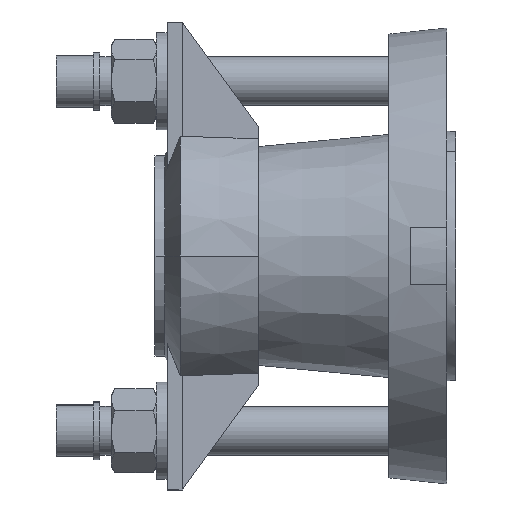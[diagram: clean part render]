
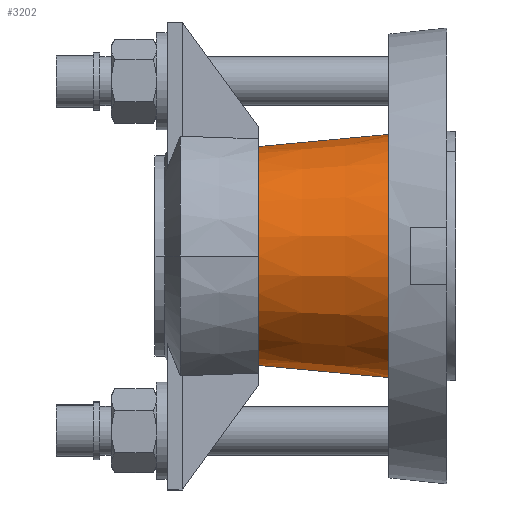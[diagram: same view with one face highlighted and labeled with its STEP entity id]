
A CAD part, left-side view. The second image highlights one B-rep face of the part: STEP entity #3202.
In plain terms, the highlighted conical face has half-angle 5.315 degrees and reference radius 40 mm.
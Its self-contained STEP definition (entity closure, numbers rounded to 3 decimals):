
#36 = DIRECTION ( 'NONE',  ( 0., -0.996, -0.093 ) ) ;
#56 = CIRCLE ( 'NONE', #4865, 36. ) ;
#190 = ORIENTED_EDGE ( 'NONE', *, *, #3168, .F. ) ;
#307 = EDGE_LOOP ( 'NONE', ( #190, #401, #2816, #3012 ) ) ;
#376 = VERTEX_POINT ( 'NONE', #6258 ) ;
#401 = ORIENTED_EDGE ( 'NONE', *, *, #1634, .T. ) ;
#434 = CARTESIAN_POINT ( 'NONE',  ( 0., 19., 0. ) ) ;
#868 = VECTOR ( 'NONE', #36, 1000. ) ;
#915 = EDGE_CURVE ( 'NONE', #3923, #376, #2586, .T. ) ;
#1082 = CARTESIAN_POINT ( 'NONE',  ( 0., 19., 40. ) ) ;
#1634 = EDGE_CURVE ( 'Defeatured_0_2+Defeatured_0_3+Defeatured_0_3+Defeatured_0_3', #4362, #3923, #56, .T. ) ;
#2450 = DIRECTION ( 'NONE',  ( 0., -1., 0. ) ) ;
#2586 = LINE ( 'NONE', #6600, #868 ) ;
#2816 = ORIENTED_EDGE ( 'NONE', *, *, #915, .T. ) ;
#3012 = ORIENTED_EDGE ( 'NONE', *, *, #7700, .F. ) ;
#3168 = EDGE_CURVE ( 'NONE', #4362, #4678, #5657, .T. ) ;
#3202 = ADVANCED_FACE ( 'Defeatured_0_2', ( #3712 ), #4330, .T. ) ;
#3543 = DIRECTION ( 'NONE',  ( 0., 0., -1. ) ) ;
#3712 = FACE_OUTER_BOUND ( 'NONE', #307, .T. ) ;
#3735 = CARTESIAN_POINT ( 'NONE',  ( 0., 19., 0. ) ) ;
#3923 = VERTEX_POINT ( 'NONE', #7714 ) ;
#4015 = AXIS2_PLACEMENT_3D ( 'NONE', #3735, #2450, #7585 ) ;
#4330 = CONICAL_SURFACE ( 'NONE', #6684, 40., 0.093 ) ;
#4362 = VERTEX_POINT ( 'NONE', #4858 ) ;
#4407 = CARTESIAN_POINT ( 'NONE',  ( 0., 62., 0. ) ) ;
#4678 = VERTEX_POINT ( 'NONE', #6082 ) ;
#4699 = DIRECTION ( 'NONE',  ( 0., 0., -1. ) ) ;
#4858 = CARTESIAN_POINT ( 'NONE',  ( 0., 62., 36. ) ) ;
#4865 = AXIS2_PLACEMENT_3D ( 'NONE', #4407, #6407, #4699 ) ;
#5657 = LINE ( 'NONE', #1082, #7238 ) ;
#5704 = DIRECTION ( 'NONE',  ( 0., -1., 0. ) ) ;
#6082 = CARTESIAN_POINT ( 'NONE',  ( 0., 19., 40. ) ) ;
#6258 = CARTESIAN_POINT ( 'NONE',  ( 0., 19., -40. ) ) ;
#6407 = DIRECTION ( 'NONE',  ( 0., -1., 0. ) ) ;
#6600 = CARTESIAN_POINT ( 'NONE',  ( 0., 19., -40. ) ) ;
#6684 = AXIS2_PLACEMENT_3D ( 'NONE', #434, #5704, #3543 ) ;
#7238 = VECTOR ( 'NONE', #8295, 1000. ) ;
#7585 = DIRECTION ( 'NONE',  ( 0., 0., -1. ) ) ;
#7700 = EDGE_CURVE ( 'Defeatured_0_1+Defeatured_0_2+Defeatured_0_2+Defeatured_0_2', #4678, #376, #7745, .T. ) ;
#7714 = CARTESIAN_POINT ( 'NONE',  ( 0., 62., -36. ) ) ;
#7745 = CIRCLE ( 'NONE', #4015, 40. ) ;
#8295 = DIRECTION ( 'NONE',  ( 0., -0.996, 0.093 ) ) ;
